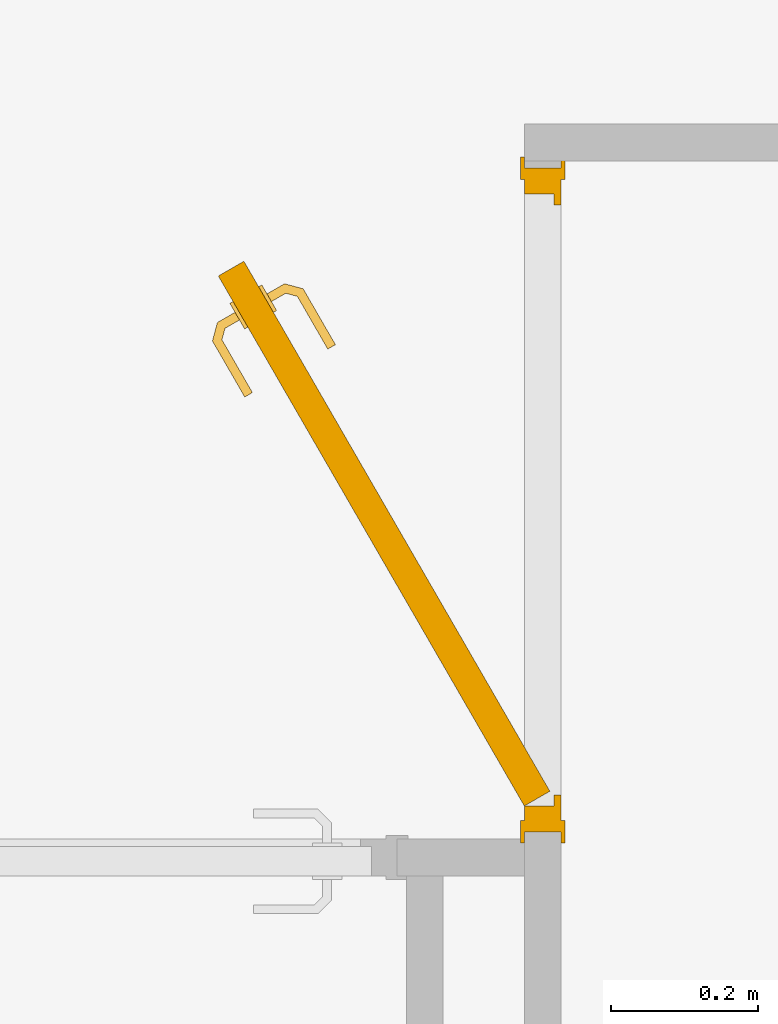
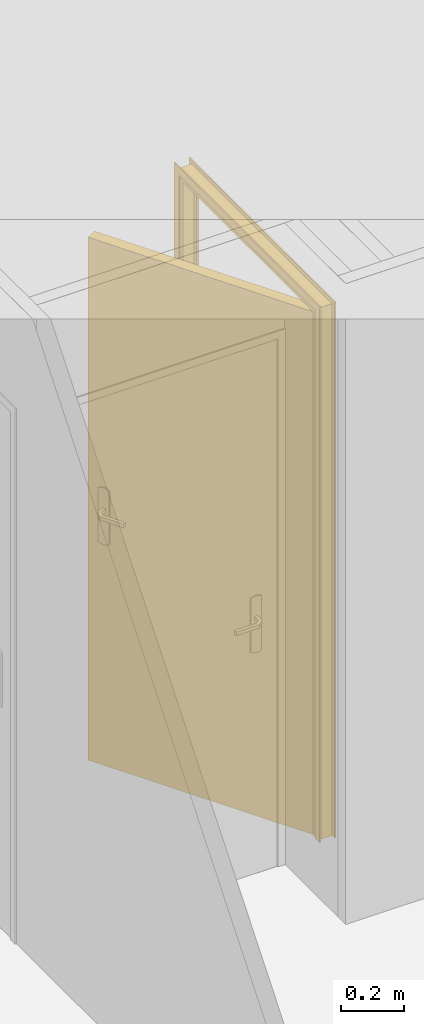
# One storey, part 10 of 14: 1 door.
"""IFC2X3 building model written with IfcOpenShell, lengths in millimetres."""

from ifc_helpers import new_model, entity, si_unit, converted_unit, direction, frame, origin, origin_with_axes, place, context, project, spatial, faceted_brep, element, save


model = new_model("IFC2X3")

# Units and contexts
model_context = context("Model", 3, precision=1e-05, world=origin(), true_north=direction((0.0, 1.0, 0.0)))
ifc_project = project(units=[si_unit("LENGTHUNIT", "METRE", prefix="MILLI"), si_unit("AREAUNIT", "SQUARE_METRE"), si_unit("VOLUMEUNIT", "CUBIC_METRE"), converted_unit("PLANEANGLEUNIT", "DEGREE", entity("IfcPlaneAngleMeasure", 0.01745), si_unit("PLANEANGLEUNIT", "RADIAN"), dimensions=[0, 0, 0, 0, 0, 0, 0]), si_unit("SOLIDANGLEUNIT", "STERADIAN"), si_unit("MASSUNIT", "GRAM"), si_unit("TIMEUNIT", "SECOND"), si_unit("THERMODYNAMICTEMPERATUREUNIT", "DEGREE_CELSIUS"), si_unit("LUMINOUSINTENSITYUNIT", "LUMEN")], contexts=[model_context])

# Site, building, storey
placement = place(None, origin_with_axes())
site_placement = place(placement, frame((11636.08881703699, 2815.7442167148, 4.768371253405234e-06), z_axis=(0.0, 0.0, 1.0), x_axis=(1.0, 0.0, 0.0)))
site = spatial("IfcSite", under=ifc_project, at=site_placement, Name="Surface", CompositionType="ELEMENT")
building_placement = place(placement, origin_with_axes())
building = spatial("IfcBuilding", under=site, at=building_placement, Name="Default Building", CompositionType="ELEMENT")
storey_placement = place(building_placement, origin_with_axes())
storey = spatial("IfcBuildingStorey", under=building, at=storey_placement, Name="Plan étage", CompositionType="ELEMENT", Elevation=0.0)

# Door
door_placement = place(storey_placement, frame((11636.08881703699, 2815.7442167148, 4.768371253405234e-06), z_axis=(0.0, 0.0, 1.0), x_axis=(1.0, 0.0, 0.0)))
element("IfcDoor", 1, at=door_placement, inside=storey, Name="IfcDoor - Int. Simple:PP (0.83m x 2.04m)", context=model_context, shape_type="Brep", body=[
    faceted_brep([(-586.0888181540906, 1359.255785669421, 2740.000042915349), (-581.0888191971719, 1389.255786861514, 2740.000042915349), (-581.0888191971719, 1359.255785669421, 2740.000042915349), (-586.0888181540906, 1389.255786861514, 2740.000042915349), (-586.0888181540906, 489.2557809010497, 2740.000042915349), (-581.0888191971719, 459.2557797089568, 2740.000042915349), (-586.0888181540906, 459.2557797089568, 2740.000042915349), (-581.0888191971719, 489.2557809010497, 2740.000042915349), (-586.0888181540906, 1359.255785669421, 4799.99998569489), (-581.0888191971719, 489.2557809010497, 4799.99998569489), (-586.0888181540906, 489.2557809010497, 4799.99998569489), (-581.0888191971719, 1359.255785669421, 4799.99998569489), (-581.0888191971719, 1389.255786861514, 4829.99995708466), (-586.0888181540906, 459.2557797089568, 4829.99995708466), (-581.0888191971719, 459.2557797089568, 4829.99995708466), (-586.0888181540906, 1389.255786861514, 4829.99995708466), (-531.0888184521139, 1359.255785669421, 4799.99998569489), (-526.0888194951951, 489.2557809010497, 4799.99998569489), (-531.0888184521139, 489.2557809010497, 4799.99998569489), (-526.0888194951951, 1359.255785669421, 4799.99998569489), (-526.0888194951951, 1389.255786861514, 4829.99995708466), (-531.0888184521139, 459.2557797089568, 4829.99995708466), (-526.0888194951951, 459.2557797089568, 4829.99995708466), (-531.0888184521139, 1389.255786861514, 4829.99995708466), (-531.0888184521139, 459.2557797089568, 2740.000042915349), (-526.0888194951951, 459.2557797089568, 2740.000042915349), (-526.0888194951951, 489.2557809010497, 2740.000042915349), (-531.0888184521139, 489.2557809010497, 2740.000042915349), (-531.0888184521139, 1359.255785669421, 2740.000042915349), (-526.0888194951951, 1359.255785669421, 2740.000042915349), (-526.0888194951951, 1389.255786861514, 2740.000042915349), (-531.0888184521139, 1389.255786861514, 2740.000042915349), (-581.0888191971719, 1339.255774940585, 4780.000004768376), (-541.088819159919, 509.2557916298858, 4780.000004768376), (-581.0888191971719, 509.2557916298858, 4780.000004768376), (-541.088819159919, 1339.255774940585, 4780.000004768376), (-541.088819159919, 1324.2557892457, 4765.000019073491), (-531.0888184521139, 524.255777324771, 4765.000019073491), (-541.088819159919, 524.255777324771, 4765.000019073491), (-531.0888184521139, 1324.2557892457, 4765.000019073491), (-531.0888184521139, 1374.255771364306, 4814.999971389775), (-581.0888191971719, 474.2557952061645, 4814.999971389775), (-531.0888184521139, 474.2557952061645, 4814.999971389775), (-581.0888191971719, 1374.255771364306, 4814.999971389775), (-541.088819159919, 509.2557916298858, 2740.000042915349), (-581.0888191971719, 509.2557916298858, 2740.000042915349), (-531.0888184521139, 524.255777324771, 2740.000042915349), (-541.088819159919, 524.255777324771, 2740.000042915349), (-531.0888184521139, 474.2557952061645, 2740.000042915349), (-581.0888191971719, 474.2557952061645, 2740.000042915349), (-581.0888191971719, 1339.255774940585, 2740.000042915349), (-581.0888191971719, 1374.255771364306, 2740.000042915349), (-541.088819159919, 1339.255774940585, 2740.000042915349), (-541.088819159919, 1324.2557892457, 2740.000042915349), (-531.0888184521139, 1324.2557892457, 2740.000042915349), (-531.0888184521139, 1374.255771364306, 2740.000042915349), (-961.4478077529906, 1248.056856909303, 4779.999980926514), (-996.0888203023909, 1228.05687598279, 2740.000019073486), (-996.0888203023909, 1228.05687598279, 4779.999980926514), (-961.4478077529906, 1248.056856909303, 2740.000019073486), (-581.08881374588, 509.2557948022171, 2740.000019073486), (-546.4478011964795, 529.2557757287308, 2740.000019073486), (-581.08881374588, 509.2557948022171, 4779.999980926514), (-546.4478011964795, 529.2557757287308, 4779.999980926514), (-883.667713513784, 1207.329367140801, 3732.219558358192), (-863.5310479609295, 1168.401044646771, 3732.121313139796), (-886.3367275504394, 1203.851041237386, 3732.219558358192), (-861.0834651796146, 1176.161707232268, 3732.999999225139), (-844.2332842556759, 1130.925747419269, 3732.219558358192), (-868.3156133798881, 1164.688153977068, 3732.999999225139), (-840.7253646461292, 1132.951046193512, 3732.219558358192), (-847.6754822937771, 1128.938397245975, 3732.999999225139), (-888.9557295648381, 1200.437889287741, 3732.999999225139), (-881.0487077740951, 1210.742522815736, 3732.999999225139), (-837.2831740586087, 1134.938396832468, 3732.999999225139), (-861.0834651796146, 1176.161707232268, 3747.000001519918), (-837.2831740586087, 1134.938396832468, 3747.000001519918), (-881.0487077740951, 1210.742522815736, 3747.000001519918), (-840.7253646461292, 1132.951046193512, 3747.780442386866), (-863.5310479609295, 1168.401044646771, 3747.878685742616), (-844.2332842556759, 1130.925747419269, 3747.780442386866), (-886.3367275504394, 1203.851041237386, 3747.780442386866), (-868.3156059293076, 1164.688142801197, 3747.000001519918), (-883.667713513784, 1207.329367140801, 3747.780442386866), (-847.6754822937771, 1128.938397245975, 3747.000001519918), (-888.9557295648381, 1200.437889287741, 3747.000001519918), (-904.6449181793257, 1204.641793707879, 3732.999999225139), (-905.206465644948, 1208.907176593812, 3732.219558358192), (-905.7787354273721, 1213.25400177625, 3732.219558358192), (-906.340283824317, 1217.519377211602, 3732.999999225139), (-906.340283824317, 1217.519377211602, 3747.000001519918), (-905.7787354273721, 1213.25400177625, 3747.780442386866), (-905.206465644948, 1208.907176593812, 3747.780442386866), (-904.6449181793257, 1204.641793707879, 3747.000001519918), (-924.1176757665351, 1193.399191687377, 3732.999999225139), (-926.1050261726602, 1196.841382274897, 3732.219558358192), (-928.1303249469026, 1200.349305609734, 3732.219558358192), (-930.1176755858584, 1203.791496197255, 3732.999999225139), (-930.1176755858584, 1203.791496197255, 3747.000001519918), (-928.1303249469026, 1200.349305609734, 3747.780442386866), (-926.1050261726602, 1196.841382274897, 3747.780442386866), (-924.1176757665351, 1193.399191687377, 3747.000001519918), (-960.2711820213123, 1063.962583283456, 3732.999999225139), (-1004.09189846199, 1139.862285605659, 3747.000001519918), (-1004.09189846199, 1139.862285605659, 3732.999999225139), (-960.2711820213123, 1063.962583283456, 3747.000001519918), (-956.8289914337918, 1065.949928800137, 3732.219558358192), (-976.1543409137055, 1103.473015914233, 3732.121313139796), (-953.3210680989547, 1067.97522757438, 3732.219558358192), (-995.4796903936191, 1140.996104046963, 3732.219558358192), (-970.5465943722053, 1105.76011691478, 3732.999999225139), (-999.8265155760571, 1140.423833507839, 3732.219558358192), (-984.1266521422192, 1105.281465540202, 3732.999999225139), (-949.8788775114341, 1069.962580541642, 3732.999999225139), (-991.2143075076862, 1141.557651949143, 3732.999999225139), (-949.8788775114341, 1069.962580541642, 3747.000001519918), (-991.2143075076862, 1141.557651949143, 3747.000001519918), (-999.8265155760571, 1140.423833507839, 3747.780442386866), (-976.1543409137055, 1103.473015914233, 3747.878685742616), (-995.4796903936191, 1140.996104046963, 3747.780442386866), (-984.1266521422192, 1105.281469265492, 3747.000001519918), (-953.3210680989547, 1067.97522757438, 3747.780442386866), (-970.5465943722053, 1105.76011691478, 3747.000001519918), (-956.8289914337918, 1065.949928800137, 3747.780442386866), (-997.3653727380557, 1164.966021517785, 3747.000001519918), (-997.3653727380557, 1164.966021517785, 3732.999999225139), (-993.9522170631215, 1162.347015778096, 3732.219558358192), (-990.4738911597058, 1159.678001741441, 3732.219558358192), (-987.0607354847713, 1157.058997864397, 3732.999999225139), (-987.0607354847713, 1157.058997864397, 3747.000001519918), (-990.4738911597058, 1159.678001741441, 3747.780442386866), (-993.9522170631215, 1162.347015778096, 3747.780442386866), (-973.4189459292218, 1178.791497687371, 3747.000001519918), (-973.4189459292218, 1178.791497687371, 3732.999999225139), (-971.4315966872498, 1175.34930337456, 3732.219558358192), (-969.4062979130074, 1171.841383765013, 3732.219558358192), (-967.4189449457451, 1168.399191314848, 3732.999999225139), (-967.4189449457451, 1168.399191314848, 3747.000001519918), (-969.4062979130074, 1171.841383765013, 3747.780442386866), (-971.4315966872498, 1175.34930337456, 3747.780442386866), (-921.4478027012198, 1178.774834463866, 3819.999996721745), (-917.1176755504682, 1181.274835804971, 3610.000003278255), (-917.1176755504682, 1181.274835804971, 3819.999996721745), (-921.4478027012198, 1178.774834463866, 3610.000003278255), (-921.9412947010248, 1189.629589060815, 3606.003981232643), (-926.2714218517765, 1187.12958771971, 3606.003981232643), (-927.1176755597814, 1198.595345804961, 3604.641016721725), (-931.4478025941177, 1196.095344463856, 3604.641016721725), (-936.6241828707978, 1205.061097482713, 3606.003981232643), (-932.2940563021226, 1207.561102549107, 3606.003981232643), (-937.1176758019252, 1215.915855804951, 3610.000003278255), (-941.4478023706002, 1213.415850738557, 3610.000003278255), (-937.1176758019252, 1215.915855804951, 3819.999996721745), (-941.4478023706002, 1213.415850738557, 3819.999996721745), (-932.2940563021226, 1207.561102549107, 3823.996018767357), (-936.6241828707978, 1205.061097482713, 3823.996018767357), (-927.1176755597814, 1198.595345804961, 3825.358983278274), (-931.4478025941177, 1196.095344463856, 3825.358983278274), (-926.2714218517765, 1187.12958771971, 3823.996018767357), (-921.9412947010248, 1189.629589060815, 3823.996018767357), (-980.418945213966, 1190.915853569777, 3610.000003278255), (-976.088820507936, 1193.415851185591, 3819.999996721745), (-976.088820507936, 1193.415851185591, 3610.000003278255), (-980.418945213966, 1190.915853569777, 3819.999996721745), (-971.2651991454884, 1185.061097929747, 3823.996018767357), (-975.5953275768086, 1182.561100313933, 3823.996018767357), (-966.0888188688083, 1176.095344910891, 3825.358983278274), (-970.4189473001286, 1173.595343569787, 3825.358983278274), (-965.2425632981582, 1164.629588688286, 3823.996018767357), (-960.9124385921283, 1167.12959002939, 3823.996018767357), (-956.0888172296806, 1158.774836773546, 3819.999996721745), (-960.4189456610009, 1156.274836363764, 3819.999996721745), (-956.0888172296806, 1158.774836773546, 3610.000003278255), (-960.4189456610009, 1156.274836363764, 3610.000003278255), (-960.9124385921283, 1167.12959002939, 3606.003981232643), (-965.2425632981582, 1164.629588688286, 3606.003981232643), (-966.0888188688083, 1176.095344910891, 3604.641016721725), (-970.4189473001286, 1173.595343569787, 3604.641016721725), (-975.5953275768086, 1182.561100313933, 3606.003981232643), (-971.2651991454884, 1185.061097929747, 3606.003981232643)], [[[0, 1, 2]], [[0, 3, 1]], [[4, 5, 6]], [[4, 7, 5]], [[8, 9, 10]], [[8, 11, 9]], [[12, 13, 14]], [[12, 15, 13]], [[14, 6, 5]], [[14, 13, 6]], [[10, 7, 4]], [[10, 9, 7]], [[0, 11, 8]], [[0, 2, 11]], [[12, 9, 11]], [[14, 9, 12]], [[14, 7, 9]], [[7, 14, 5]], [[11, 1, 12]], [[1, 11, 2]], [[1, 15, 12]], [[1, 3, 15]], [[13, 10, 6]], [[13, 8, 10]], [[15, 8, 13]], [[15, 0, 8]], [[0, 15, 3]], [[6, 10, 4]], [[16, 17, 18]], [[16, 19, 17]], [[20, 21, 22]], [[20, 23, 21]], [[22, 24, 25]], [[22, 21, 24]], [[18, 26, 27]], [[18, 17, 26]], [[27, 25, 24]], [[27, 26, 25]], [[28, 19, 16]], [[28, 29, 19]], [[20, 17, 19]], [[22, 17, 20]], [[22, 26, 17]], [[26, 22, 25]], [[19, 30, 20]], [[30, 19, 29]], [[30, 23, 20]], [[30, 31, 23]], [[21, 18, 24]], [[21, 16, 18]], [[23, 16, 21]], [[23, 28, 16]], [[28, 23, 31]], [[24, 18, 27]], [[28, 30, 29]], [[28, 31, 30]], [[32, 33, 34]], [[32, 35, 33]], [[36, 37, 38]], [[36, 39, 37]], [[40, 41, 42]], [[40, 43, 41]], [[34, 44, 45]], [[34, 33, 44]], [[38, 46, 47]], [[38, 37, 46]], [[46, 44, 47]], [[48, 44, 46]], [[48, 45, 44]], [[45, 48, 49]], [[42, 49, 48]], [[42, 41, 49]], [[41, 34, 49]], [[41, 32, 34]], [[43, 32, 41]], [[43, 50, 32]], [[50, 43, 51]], [[49, 34, 45]], [[50, 35, 32]], [[50, 52, 35]], [[33, 38, 44]], [[33, 36, 38]], [[35, 36, 33]], [[35, 53, 36]], [[53, 35, 52]], [[44, 38, 47]], [[53, 39, 36]], [[53, 54, 39]], [[40, 54, 55]], [[40, 39, 54]], [[40, 37, 39]], [[42, 37, 40]], [[42, 46, 37]], [[46, 42, 48]], [[55, 43, 40]], [[55, 51, 43]], [[53, 55, 54]], [[52, 55, 53]], [[50, 55, 52]], [[55, 50, 51]], [[56, 57, 58]], [[56, 59, 57]], [[59, 60, 57]], [[59, 61, 60]], [[61, 62, 60]], [[61, 63, 62]], [[63, 58, 62]], [[63, 56, 58]], [[58, 60, 62]], [[58, 57, 60]], [[56, 61, 59]], [[56, 63, 61]], [[64, 65, 66]], [[64, 67, 65]], [[68, 69, 65]], [[70, 68, 65]], [[69, 68, 71]], [[72, 66, 69]], [[65, 69, 66]], [[64, 73, 67]], [[74, 70, 67]], [[67, 70, 65]], [[74, 75, 76]], [[67, 75, 74]], [[73, 75, 67]], [[75, 73, 77]], [[78, 79, 80]], [[81, 82, 79]], [[83, 81, 79]], [[75, 83, 79]], [[77, 83, 75]], [[76, 75, 78]], [[82, 84, 80]], [[85, 82, 81]], [[75, 79, 78]], [[82, 80, 79]], [[84, 69, 71]], [[84, 72, 69]], [[82, 72, 84]], [[72, 82, 85]], [[76, 70, 74]], [[78, 70, 76]], [[78, 68, 70]], [[80, 68, 78]], [[80, 71, 68]], [[71, 80, 84]], [[66, 86, 87]], [[66, 72, 86]], [[73, 88, 89]], [[73, 64, 88]], [[89, 77, 73]], [[89, 90, 77]], [[83, 90, 91]], [[83, 77, 90]], [[85, 92, 93]], [[85, 81, 92]], [[93, 72, 85]], [[93, 86, 72]], [[87, 94, 95]], [[87, 86, 94]], [[87, 64, 66]], [[87, 88, 64]], [[95, 88, 87]], [[88, 95, 96]], [[89, 96, 97]], [[89, 88, 96]], [[97, 90, 89]], [[97, 98, 90]], [[91, 98, 99]], [[91, 90, 98]], [[83, 92, 81]], [[91, 92, 83]], [[91, 100, 92]], [[100, 91, 99]], [[93, 100, 101]], [[93, 92, 100]], [[101, 86, 93]], [[101, 94, 86]], [[96, 98, 97]], [[96, 99, 98]], [[95, 99, 96]], [[95, 100, 99]], [[94, 100, 95]], [[100, 94, 101]], [[102, 103, 104]], [[105, 103, 102]], [[106, 107, 108]], [[109, 110, 107]], [[111, 109, 107]], [[112, 111, 107]], [[104, 111, 112]], [[102, 112, 106]], [[110, 113, 108]], [[114, 110, 109]], [[112, 107, 106]], [[110, 108, 107]], [[115, 114, 116]], [[113, 114, 115]], [[117, 118, 119]], [[117, 120, 118]], [[121, 122, 118]], [[123, 121, 118]], [[122, 121, 115]], [[116, 119, 122]], [[118, 122, 119]], [[117, 103, 120]], [[105, 123, 120]], [[120, 123, 118]], [[115, 108, 113]], [[121, 108, 115]], [[121, 106, 108]], [[123, 106, 121]], [[123, 102, 106]], [[102, 123, 105]], [[124, 104, 103]], [[124, 125, 104]], [[111, 125, 126]], [[111, 104, 125]], [[114, 127, 128]], [[114, 109, 127]], [[128, 116, 114]], [[128, 129, 116]], [[119, 129, 130]], [[119, 116, 129]], [[103, 131, 124]], [[103, 117, 131]], [[132, 125, 124]], [[132, 133, 125]], [[126, 133, 134]], [[126, 125, 133]], [[111, 127, 109]], [[126, 127, 111]], [[126, 135, 127]], [[135, 126, 134]], [[128, 135, 136]], [[128, 127, 135]], [[136, 129, 128]], [[136, 137, 129]], [[130, 137, 138]], [[130, 129, 137]], [[130, 117, 119]], [[130, 131, 117]], [[138, 131, 130]], [[131, 138, 139]], [[124, 139, 132]], [[124, 131, 139]], [[136, 138, 137]], [[135, 138, 136]], [[135, 139, 138]], [[134, 139, 135]], [[134, 132, 139]], [[132, 134, 133]], [[140, 141, 142]], [[140, 143, 141]], [[144, 143, 145]], [[144, 141, 143]], [[146, 145, 147]], [[146, 144, 145]], [[148, 146, 147]], [[148, 149, 146]], [[150, 148, 151]], [[150, 149, 148]], [[151, 152, 150]], [[151, 153, 152]], [[154, 153, 155]], [[154, 152, 153]], [[156, 155, 157]], [[156, 154, 155]], [[158, 156, 157]], [[158, 159, 156]], [[142, 158, 140]], [[142, 159, 158]], [[146, 141, 144]], [[149, 141, 146]], [[150, 141, 149]], [[150, 142, 141]], [[150, 159, 142]], [[150, 156, 159]], [[150, 154, 156]], [[154, 150, 152]], [[157, 140, 158]], [[155, 140, 157]], [[153, 140, 155]], [[153, 143, 140]], [[153, 145, 143]], [[153, 147, 145]], [[153, 148, 147]], [[148, 153, 151]], [[160, 161, 162]], [[160, 163, 161]], [[164, 163, 165]], [[164, 161, 163]], [[166, 165, 167]], [[166, 164, 165]], [[168, 166, 167]], [[168, 169, 166]], [[170, 168, 171]], [[170, 169, 168]], [[171, 172, 170]], [[171, 173, 172]], [[174, 173, 175]], [[174, 172, 173]], [[176, 175, 177]], [[176, 174, 175]], [[178, 176, 177]], [[178, 179, 176]], [[162, 178, 160]], [[162, 179, 178]], [[176, 172, 174]], [[179, 172, 176]], [[162, 172, 179]], [[162, 170, 172]], [[162, 169, 170]], [[162, 166, 169]], [[162, 164, 166]], [[164, 162, 161]], [[167, 171, 168]], [[165, 171, 167]], [[163, 171, 165]], [[163, 173, 171]], [[163, 175, 173]], [[163, 177, 175]], [[163, 178, 177]], [[178, 163, 160]]]),
])

save(model, "model.ifc")
